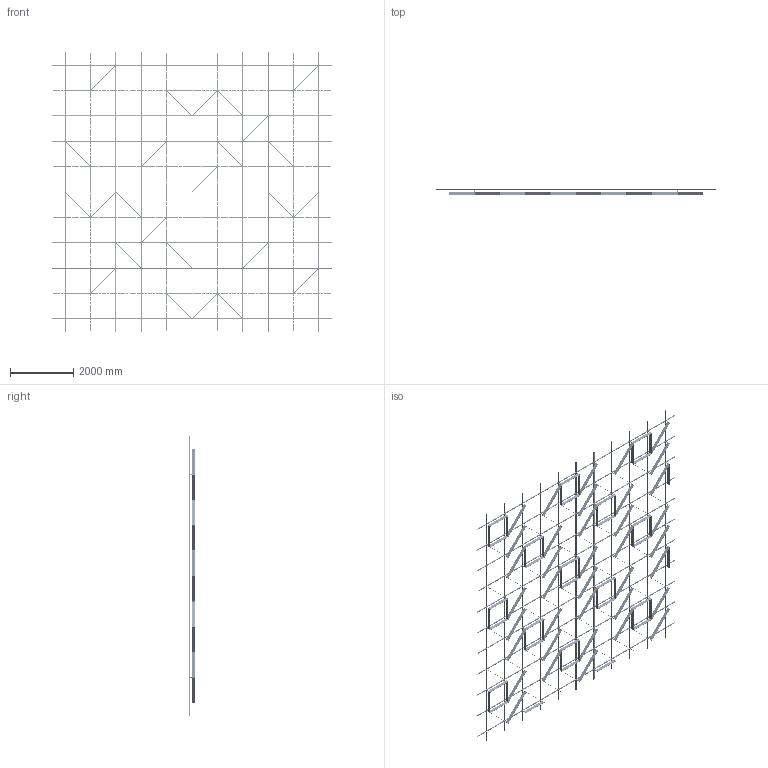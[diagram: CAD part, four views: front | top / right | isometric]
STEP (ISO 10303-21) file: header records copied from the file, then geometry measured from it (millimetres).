
FILE_DESCRIPTION (( 'STEP AP203' ), '1' );
FILE_NAME ('26 ìèäè ñ ïñ.step', '2025-11-26T11:54:26', ( '' ), ( '' ), 'SwSTEP 2.0', 'SolidWorks 2020', '' );
FILE_SCHEMA (( 'CONFIG_CONTROL_DESIGN' ));
Length unit declared in the file: millimetre
Products named in the file (5): 26 ìèäè ñ ïñ; Ñèñòåìà â çîíå 8000õ8000; SS.SEMA.2400 - Ñèìà-ïðîôèëü — îáðåçàí 1600; 謶鎷ar26; SS.SEMA.2400 - Ñèìà-ïðîôèëü
Assembly tree (90 placements, depth 3):
  26 ìèäè ñ ïñ
    Ñèñòåìà â çîíå 8000õ8000
      SS.SEMA.2400 - Ñèìà-ïðîôèëü  x66
      SS.SEMA.2400 - Ñèìà-ïðîôèëü — îáðåçàí 1600  x22
    謶鎷ar26
Bounding box: 8800 x 205 x 8800 mm (x, y, z)
Volume: 121745859.8 mm3; surface area: 56146657.1 mm2
Topology: 679 solids, 679 shells, 19126 faces, 51896 edges, 34128 vertices
Faces by surface type: cylinder 12778, plane 6348
Entity records: 74805 total; most frequent: CARTESIAN_POINT 16508, DIRECTION 11286, ORIENTED_EDGE 10640, AXIS2_PLACEMENT_3D 5394, EDGE_CURVE 5320, VERTEX_POINT 3536, EDGE_LOOP 3132, FACE_OUTER_BOUND 2970
